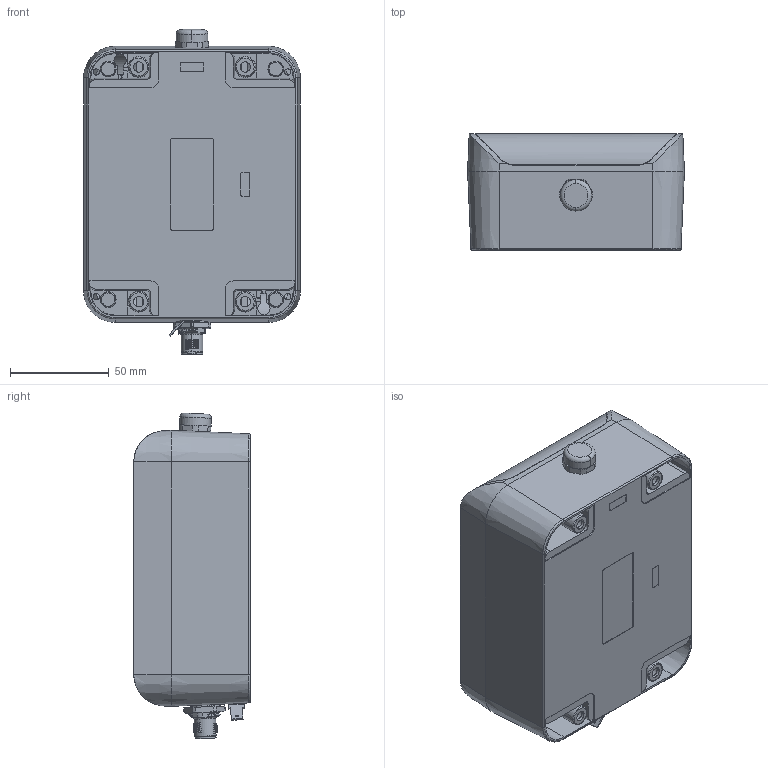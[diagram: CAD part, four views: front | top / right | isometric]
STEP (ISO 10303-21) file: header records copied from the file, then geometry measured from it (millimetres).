
FILE_DESCRIPTION (( 'STEP AP214' ), '1' );
FILE_NAME ('ETT353 support.STEP', '2016-05-27T11:06:01', ( 'SIGMATEK GmbH & Co KG' ), ( 'SIGMATEK GmbH & Co KG' ), 'SwSTEP 2.0', 'SolidWorks 2015', '' );
FILE_SCHEMA (( 'AUTOMOTIVE_DESIGN' ));
Length unit declared in the file: millimetre
Products named in the file (12): ETT353 support; AGRO Kunststoff Druckausgleichselement mit Membrane 2445.12 ; 120301_20141024; 1419645; 7227771128 - TM035KBH02_V1.41_ohne oben; 3030261492 Steckzunge 6,3 m.B. M3 DIN46244 St-verzinnt; SC110; HI_230.110.000_box; HI_230.110.000_cover_f〉 ETT354-E; HI_230.110.000_lid; ETT353 Folie support
Assembly tree (12 placements, depth 3):
  ETT353 support
    ETT353 Folie support
    SC110
      HI_230.110.000_lid  x2
      HI_230.110.000_cover_f〉 ETT354-E
      HI_230.110.000_box
    3030261492 Steckzunge 6,3 m.B. M3 DIN46244 St-verzinnt
    7227771128 - TM035KBH02_V1.41_ohne oben
    120301_20141024
      120301_20141024
      1419645
    AGRO Kunststoff Druckausgleichselement mit Membrane 2445.12 
Bounding box: 110 x 59 x 165.23 mm (x, y, z)
Volume: 207206.8 mm3; surface area: 177683.8 mm2
Topology: 10 solids, 10 shells, 1609 faces, 4279 edges, 2785 vertices
Faces by surface type: plane 808, cylinder 355, cone 305, bspline 129, torus 12
Entity records: 58541 total; most frequent: CARTESIAN_POINT 15541, ORIENTED_EDGE 8040, DIRECTION 7384, EDGE_CURVE 4020, VERTEX_POINT 2621, AXIS2_PLACEMENT_3D 2558, VECTOR 2268, LINE 2268
